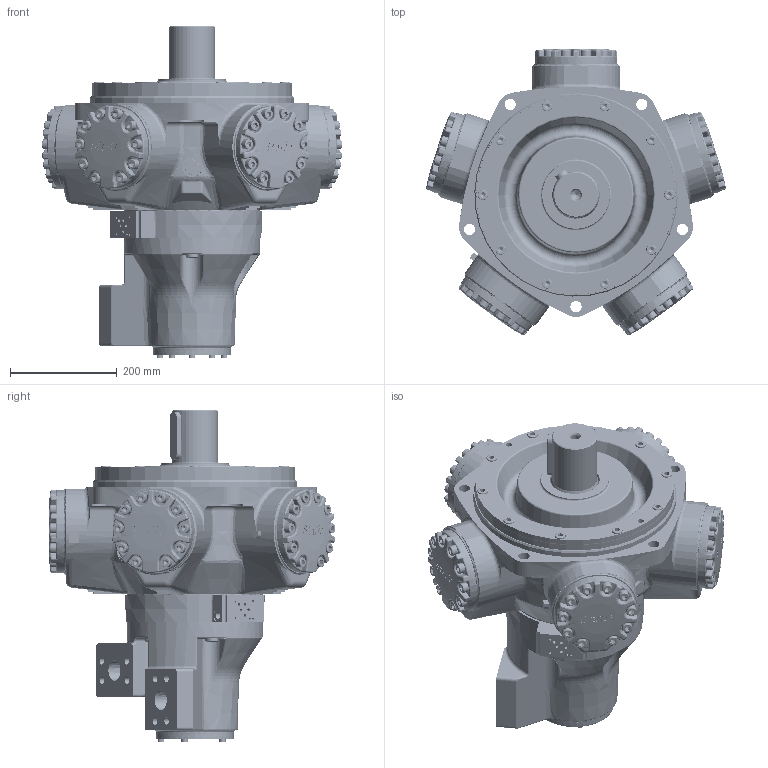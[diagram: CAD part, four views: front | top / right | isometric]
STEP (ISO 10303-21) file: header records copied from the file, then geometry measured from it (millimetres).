
FILE_DESCRIPTION((''),'2;1');
FILE_NAME('C:\Users\MNorman\Desktop\TEMP STUFF\HMC125 P FM4 C 70.stp','2012-10-02T16:36:05',('mnorman'),(''),'Autodesk Inventor 2013','Autodesk Inventor 2013','');
FILE_SCHEMA(('AUTOMOTIVE_DESIGN { 1 0 10303 214 1 1 1 1 }'));
Length unit declared in the file: millimetre
Products named in the file (1): Part5
Bounding box: 562.07 x 537.19 x 621.91 mm (x, y, z)
Volume: 27318274.8 mm3; surface area: 2317178.5 mm2
Topology: 2 solids, 81 shells, 4093 faces, 9678 edges, 5987 vertices
Faces by surface type: plane 1551, cylinder 889, bspline 857, cone 362, torus 291, sphere 143
Full cylindrical faces by diameter (mm): 3 x2, 4 x2, 4.134 x4, 5.5 x6, 6 x1, 6.2 x1, 7.938 x6, 8.334 x5, 9.945 x1, 11.328 x62, 11.5 x1, 11.913 x5, 12.7 x65, 13.15 x1, 13.494 x10, 13.5 x50, 13.843 x8, 14.351 x5, 15.875 x5, 16.272 x5, 16.51 x1, 16.7 x5, 17.323 x1, 19.05 x63, 20.6 x50, 20.638 x10, 21 x5, 22.2 x5, 23.825 x5, 25 x6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
Entity records: 141816 total; most frequent: CARTESIAN_POINT 56032, ORIENTED_EDGE 16714, DIRECTION 14989, EDGE_CURVE 8357, AXIS2_PLACEMENT_3D 5989, VERTEX_POINT 5696, EDGE_LOOP 5419, FACE_OUTER_BOUND 4092
